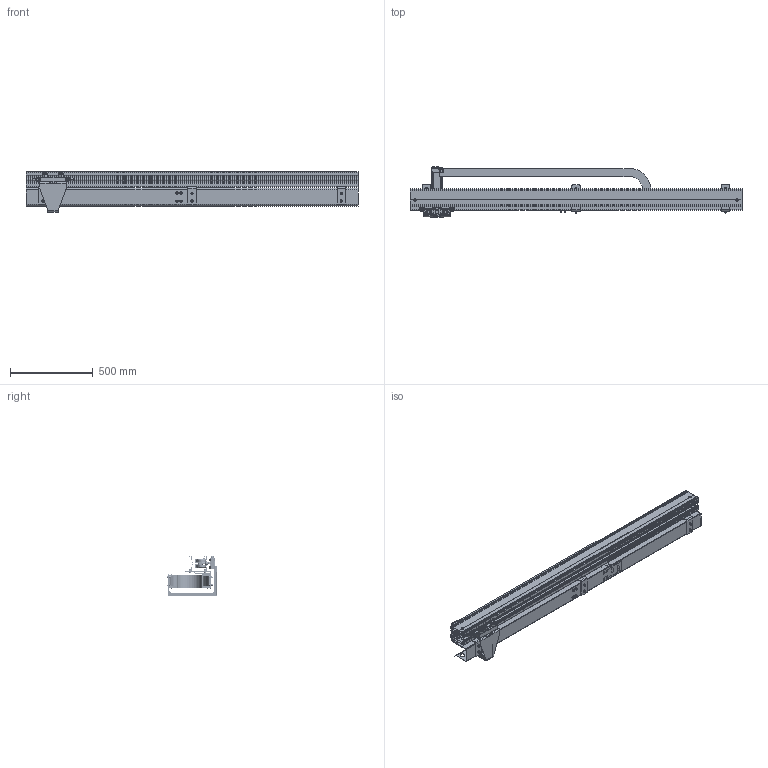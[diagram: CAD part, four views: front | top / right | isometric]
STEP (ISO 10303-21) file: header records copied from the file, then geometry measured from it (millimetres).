
FILE_DESCRIPTION (( 'STEP AP203' ), '1' );
FILE_NAME ('900.060.100.2000.STEP', '2018-02-27T08:52:54', ( '' ), ( '' ), 'SwSTEP 2.0', 'SolidWorks 2016', '' );
FILE_SCHEMA (( 'CONFIG_CONTROL_DESIGN' ));
Length unit declared in the file: millimetre
Products named in the file (33): 900.200.002-1; RONDELLE UNI 6592_6.4x12.5 UNI 6592; VITI TE UNI 5739_M6x40 UNI 5739; GRANI A PUNTA CONICA UNI 5927_M6x16 UNI 5927; SR435-4000-003; CUSCINETTI A SFERE_6002-2Z; SR435-4000-004; 900.060.100.103_Default<A macchina>; 900.200.004-2; SR435MI060100-A435M060K1-2000; SR435-2000-001; PUFFER FEMMINA_M6; RONDELLE UNI 6592_8.4x17 UNI 6592; 084.302.000 DADI ALUSIC 13x13-1_084.302.009; CUSCINETTI A SFERE_686-ZZ; 900.060.100.102; 900.200.101-1; 900.060.1000.2000-L; 084.301.000 VITI ALUSIC_084.301.011; 900.200.003-2; circlip for shafts normal_din_Circlip DIN 471 - 8 x 0.8; 084.301.000 VITI ALUSIC_084.301.001; 084.301.000 VITI ALUSIC_084.301.003; DADO ESAGONALE M20 AUTOBLOCCANTE_M20 UNI7473; SR435-4000-002; SR435-4000-005; VITI TESTA BOMBATA ISO 730 INOX_M6x20 ISO 7380 INOX; 900.200.005; VITI TE UNI 5739_M20X60 UNI 5739; DADI ESAGONALI AUTOBLOCCANTI UNI 7473_M6 UNI 7473; RONDELLE UNI 6592 INOX_6.4x12.5 UNI 6592 INOX; 900.060.100.2000; PROFILO 110x90_2000<A macchina>
Assembly tree (136 placements, depth 3):
  900.060.100.2000
    SR435MI060100-A435M060K1-2000
      SR435-2000-001
      SR435-4000-002
      SR435-4000-003
      SR435-4000-004
      SR435-4000-005
    900.060.100.102  x3
    PROFILO 110x90_2000<A macchina>
    900.200.101-1
      900.200.003-2  x8
      900.200.004-2  x2
      900.200.005  x4
      CUSCINETTI A SFERE_6002-2Z  x8
      circlip for shafts normal_din_Circlip DIN 471 - 8 x 0.8  x8
      900.200.002-1
      RONDELLE UNI 6592 INOX_6.4x12.5 UNI 6592 INOX  x4
      CUSCINETTI A SFERE_686-ZZ  x4
      PUFFER FEMMINA_M6  x2
      GRANI A PUNTA CONICA UNI 5927_M6x16 UNI 5927  x2
      VITI TE UNI 5739_M6x40 UNI 5739  x2
    900.060.100.103_Default<A macchina>
    RONDELLE UNI 6592_8.4x17 UNI 6592  x6
    084.301.000 VITI ALUSIC_084.301.003  x6
    084.302.000 DADI ALUSIC 13x13-1_084.302.009  x6
    VITI TESTA BOMBATA ISO 730 INOX_M6x20 ISO 7380 INOX  x6
    RONDELLE UNI 6592_6.4x12.5 UNI 6592  x28
    DADI ESAGONALI AUTOBLOCCANTI UNI 7473_M6 UNI 7473  x14
    084.301.000 VITI ALUSIC_084.301.011  x4
    084.301.000 VITI ALUSIC_084.301.001  x4
    VITI TE UNI 5739_M20X60 UNI 5739  x2
    DADO ESAGONALE M20 AUTOBLOCCANTE_M20 UNI7473  x2
    900.060.1000.2000-L
Bounding box: 2000 x 301.1 x 241 mm (x, y, z)
Volume: 8494368.6 mm3; surface area: 5225123.9 mm2
Topology: 142 solids, 142 shells, 4779 faces, 11621 edges, 7297 vertices
Faces by surface type: plane 1846, cylinder 1738, cone 540, torus 314, bspline 287, sphere 54
Entity records: 111216 total; most frequent: CARTESIAN_POINT 31819, ORIENTED_EDGE 15458, DIRECTION 15340, EDGE_CURVE 7729, AXIS2_PLACEMENT_3D 5710, VERTEX_POINT 4879, LINE 3920, VECTOR 3920
